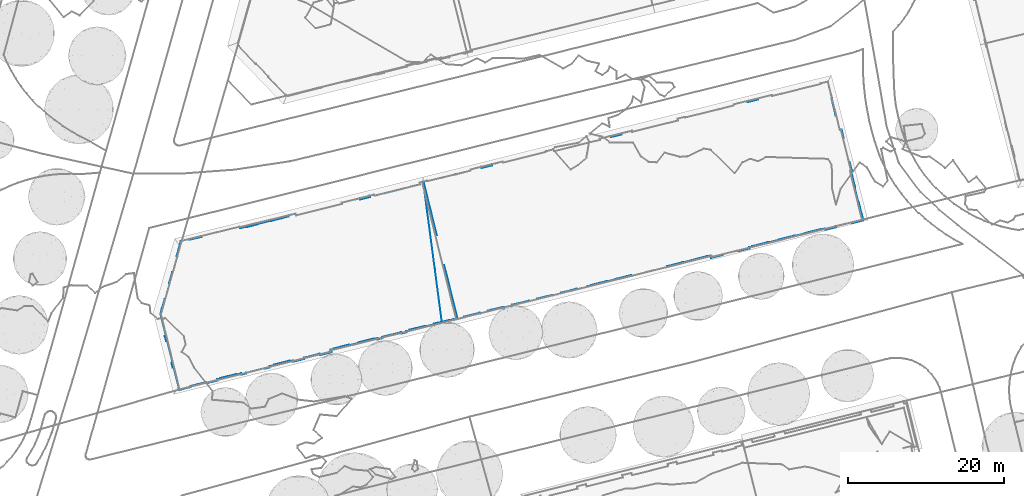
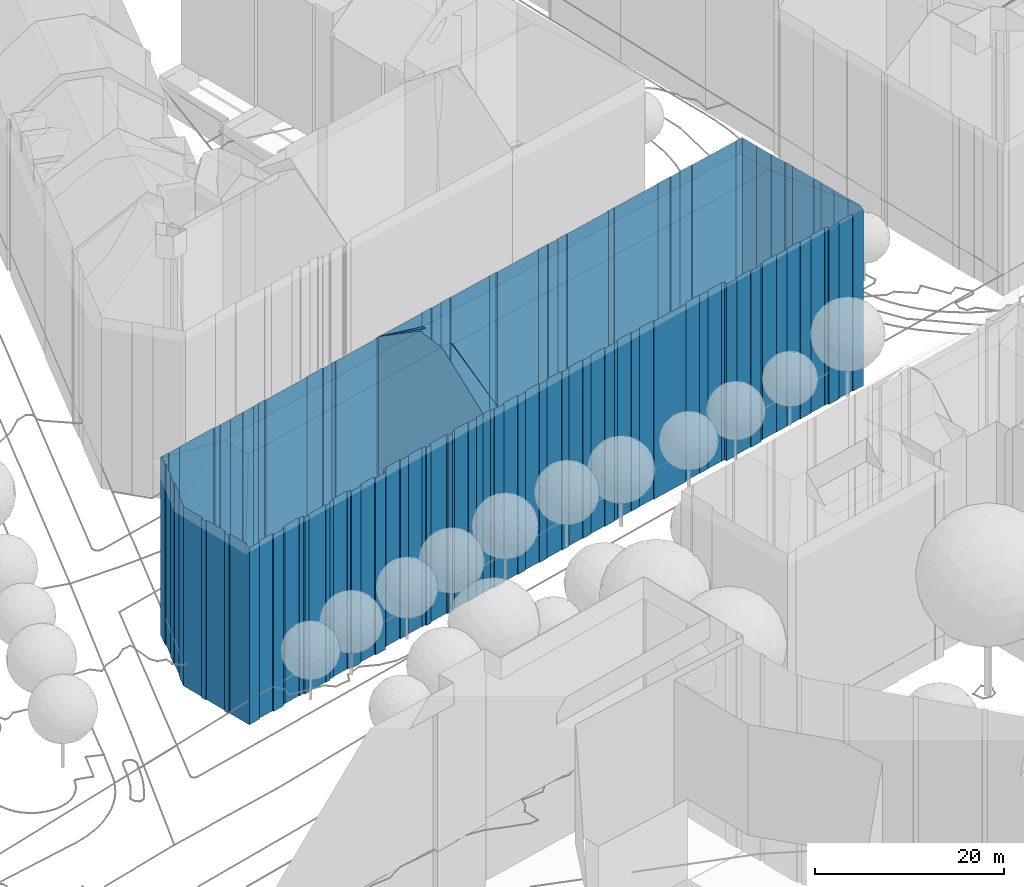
# Not in any storey, part 32 of 477: 2 walls.
"""IFC4 building model written with IfcOpenShell, lengths in metres."""

from ifc_helpers import new_model, si_unit, frame, origin_with_axes, place, context, subcontext, project, spatial, polygons, element, save


model = new_model("IFC4")

# Units and contexts
model_context = context("Model", 3, precision=1e-05, world=origin_with_axes())
body_context = subcontext(model_context, "Body", "Model", "MODEL_VIEW")
ifc_project = project(units=[si_unit("AREAUNIT", "SQUARE_METRE"), si_unit("LENGTHUNIT", "METRE")], contexts=[model_context])

# Sites, building
site_1_placement = place(None, origin_with_axes())
site_1 = spatial("IfcSite", under=ifc_project, at=site_1_placement, Name="Topoexport Site")
site_2_placement = place(site_1_placement, origin_with_axes())
site_2 = spatial("IfcSite", under=site_1, at=site_2_placement, Name="TPX_BUILDINGS")
building_1_placement = place(site_2_placement, frame((81.7547320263, 354.0350160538, 535.8227), z_axis=(0.0, 0.0, 1.0), x_axis=(1.0, 0.0, 0.0)))
building_1 = spatial("IfcBuilding", under=site_2, at=building_1_placement, Name="Building 164", CompositionType="ELEMENT")

# Wall
wall_1_placement = place(None, frame((81.7547320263, 354.0350160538, 535.8227), z_axis=(0.0, 0.0, 1.0), x_axis=(1.0, 0.0, 0.0)))
element("IfcWall", 1, at=wall_1_placement, inside=building_1, Name="Wall 0", context=body_context, shape_type="Tessellation", body=[
    polygons([(2.7639999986, -10.9317000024, 27.5734), (2.6779999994, -10.5811000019, 27.7703), (2.7639999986, -10.9317000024, 27.7403), (0.063000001, 0.0155999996, 23.0608), (1.6660000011, -6.5508000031, 27.7914), (1.6660000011, -6.5508000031, 27.4574), (0.063000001, 0.0155999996, 23.0878), (1.7730000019, -6.9131000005, 27.7424), (4.4270000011, -17.6055000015, 23.0748), (4.4270000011, -17.6055000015, 23.0608), (1.4459999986, -10.8868000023, 0.0), (0.9459999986, -7.1202000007, 27.7704), (1.4459999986, -10.8868000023, 27.7703), (1.4919999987, -11.2305000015, 0.0), (1.4919999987, -11.2305000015, 27.5814), (3.4160000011, -17.7237000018, 0.0), (3.4310000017, -17.7675999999, 23.1128), (3.4310000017, -17.7675999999, 0.0), (3.8969999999, -17.6446000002, 0.0), (3.9178999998, -17.7312000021, 23.0598), (3.9178999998, -17.7312000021, 0.0), (3.8969999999, -17.6443000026, 23.1188), (4.2390000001, -17.6513999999, 23.0608), (4.2390000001, -17.6513999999, 0.0), (4.4299999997, -17.6045000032, 0.0), (2.3880000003, -17.9776000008, 23.1418), (2.3880000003, -17.9776000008, 0.0), (4.7899999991, -17.5157000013, 23.0758), (5.2769999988, -17.3946000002, 0.0), (5.2769999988, -17.3946000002, 23.0778), (5.2609999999, -17.3057000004, 0.0), (5.2609999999, -17.3057000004, 23.1388), (7.2520000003, -16.8125, 23.1438), (7.2520000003, -16.8125, 0.0), (7.2829999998, -16.8965000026, 23.0838), (7.2829999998, -16.8965000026, 0.0), (8.2300000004, -16.6621000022, 23.0868), (8.2120000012, -16.6661000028, 0.0), (7.7230000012, -16.7871000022, 23.0848), (8.3420000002, -16.5411000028, 0.0), (8.3630000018, -16.6289000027, 0.0), (8.3420000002, -16.5411000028, 23.1478), (8.7919999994, -16.4307000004, 0.0), (8.7390000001, -16.443400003, 23.1488), (8.3630000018, -16.6289000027, 23.0858), (26.6669999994, -11.9932000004, 23.0998), (24.6559999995, -12.4786000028, 0.0), (24.6559999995, -12.4786000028, 23.1148), (26.6669999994, -11.9932000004, 0.0), (26.694000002, -12.0840000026, 23.0318), (31.2730000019, -10.9502000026, 0.0), (31.2730000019, -10.9502000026, 23.0178), (31.2470000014, -10.8467000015, 0.0), (31.2470000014, -10.8467000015, 23.0938), (33.2459999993, -10.3409000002, 23.0948), (33.2459999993, -10.3409000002, 0.0), (33.2580000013, -10.3731000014, 0.0), (34.4510000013, -10.0811000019, 23.0648), (34.4510000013, -10.0811000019, 0.0), (34.4450000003, -10.0459000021, 0.0), (36.3969999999, -9.567400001, 23.0808), (34.4450000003, -10.0459000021, 23.0898), (36.4070000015, -9.6084000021, 23.0498), (36.4070000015, -9.6084000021, 0.0), (36.3969999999, -9.567400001, 0.0), (36.8330000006, -9.5020000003, 0.0), (36.8330000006, -9.5020000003, 23.0488), (36.9050000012, -9.7803000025, 22.8438), (36.9052000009, -9.7803000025, 0.0), (40.3770000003, -8.8203000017, 22.9028), (40.3770000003, -8.8203000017, 0.0), (38.3379999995, -9.327200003, 0.0), (38.3379999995, -9.327200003, 22.9078), (40.4010000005, -8.9151000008, 0.0), (40.4010000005, -8.9151000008, 22.8328), (41.8090000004, -8.563500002, 0.0), (41.8090000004, -8.563500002, 22.8298), (41.7730000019, -8.4131000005, 22.9408), (42.1550000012, -8.3194000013, 0.0), (41.7730000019, -8.4131000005, 0.0), (42.1550000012, -8.3194000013, 22.9388), (42.1449999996, -8.2803000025, 22.9678), (42.1449999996, -8.2803000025, 0.0), (44.1460000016, -7.7832000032, 22.9628), (44.1460000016, -7.7832000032, 0.0), (44.1610000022, -7.8145000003, 22.9388), (44.1610000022, -7.8145000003, 0.0), (45.6469999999, -7.4502000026, 22.9308), (47.5320000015, -6.942400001, 0.0), (45.6330000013, -7.4034000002, 0.0), (47.5320000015, -6.942400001, 22.9538), (45.6330000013, -7.4034000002, 22.9658), (47.5450000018, -6.9803000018, 22.9248), (47.5450000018, -6.9805000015, 0.0), (49.0370000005, -6.6152999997, 0.0), (49.0370000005, -6.6152999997, 22.9168), (49.0250000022, -6.5703000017, 22.9508), (49.0250000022, -6.5703000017, 0.0), (51.0549999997, -6.0577000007, 22.9508), (51.0549999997, -6.0576000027, 0.0), (51.0709999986, -6.1055000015, 0.0), (51.4629999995, -6.004900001, 22.9158), (51.4629999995, -6.004900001, 0.0), (51.0709999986, -6.1055000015, 22.9148), (51.5159999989, -6.1748000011, 22.7888), (51.5159999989, -6.1748000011, 0.0), (52.9180000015, -5.8379000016, 22.7768), (52.9180000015, -5.8379000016, 0.0), (52.8949999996, -5.7276000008, 22.8578), (52.8949999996, -5.7276000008, 0.0), (54.9420000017, -5.2276000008, 22.8468), (54.9420000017, -5.2276000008, 0.0), (54.9670000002, -5.3269999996, 22.7728), (54.9670000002, -5.3269999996, 0.0), (56.4129999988, -4.9825000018, 22.7598), (10.3099999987, -16.0567000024, 23.1428), (10.3099999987, -16.0567000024, 0.0), (10.3359999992, -16.1407000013, 23.0798), (10.3361000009, -16.1405999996, 0.0), (11.4270000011, -15.8692000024, 23.0768), (11.4270000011, -15.8692000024, 0.0), (11.4090000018, -15.7901000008, 0.0), (11.4090000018, -15.7901000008, 23.1348), (13.561999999, -15.2696000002, 0.0), (13.5789999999, -15.3360000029, 23.0698), (13.5621000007, -15.2699000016, 23.1198), (13.5789999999, -15.3360000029, 0.0), (14.5879999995, -15.0860000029, 23.0668), (14.5879999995, -15.0860000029, 0.0), (14.5729999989, -15.0157000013, 0.0), (14.5729999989, -15.0157000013, 23.1188), (16.5639999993, -14.5244000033, 0.0), (16.5639999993, -14.5245000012, 23.1118), (16.5800000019, -14.5918000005, 23.0618), (16.5800000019, -14.5918000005, 0.0), (17.6959999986, -14.3155000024, 23.0578), (17.6959999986, -14.3154000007, 0.0), (17.6810000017, -14.2383000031, 0.0), (17.6810000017, -14.2383000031, 23.1148), (19.6710000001, -13.7471000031, 23.1068), (19.6710000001, -13.7471000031, 0.0), (19.6909999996, -13.8213, 0.0), (19.6909999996, -13.8213, 23.0518), (21.0590000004, -13.4825000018, 23.0478), (21.0590000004, -13.4825000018, 0.0), (21.0470000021, -13.4239000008, 23.0898), (21.5269999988, -13.3057000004, 0.0), (21.5269999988, -13.3057000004, 23.0888), (21.0470000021, -13.4239000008, 0.0), (21.5130000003, -13.2530000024, 0.0), (23.5159999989, -12.7637000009, 0.0), (23.5159999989, -12.7637000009, 23.1168), (21.5130000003, -13.2530000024, 23.1268), (23.5280000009, -12.8055000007, 23.0858), (23.5280000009, -12.8055000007, 0.0), (24.6680000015, -12.5263999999, 0.0), (24.6680000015, -12.5263999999, 23.0798), (56.2630000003, -4.3692000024, 23.0758), (56.2320000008, -4.2422000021, 23.0718), (56.2769999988, -4.4229000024, 7.2093), (56.307, -4.5470000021, 0.0), (56.307, -4.5470000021, 23.0798), (56.2300000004, -4.2334000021, 0.0), (52.9479999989, 8.5067999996, 22.9398), (53.4220000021, 6.5898000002, 0.0), (53.4220000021, 6.5898000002, 22.9728), (52.9479999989, 8.5067999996, 0.0), (52.8770000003, 8.4842999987, 0.0), (52.8770000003, 8.4842999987, 22.9908), (52.3440000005, 10.6747999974, 22.9478), (52.3440000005, 10.6747999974, 0.0), (52.4050000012, 10.6991999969, 0.0), (51.8770000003, 12.8299999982, 22.8678), (51.8770000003, 12.8299999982, 0.0), (52.4050000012, 10.6991999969, 22.9028), (51.8110000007, 12.8134000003, 22.9138), (50.9210000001, 12.5975999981, 22.9138), (55.9880000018, -3.2442000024, 23.0528), (55.9979999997, -3.2842000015, 5.7504), (55.8570000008, -2.7090000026, 0.0), (55.8570000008, -2.7090000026, 23.0428), (56.1380000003, -3.8594000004, 11.5289), (55.8110000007, -2.7168000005, 0.0), (55.8110000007, -2.7168000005, 23.0748), (55.3489999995, -0.6338, 0.0), (55.3029999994, -0.6494000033, 0.0), (55.3489999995, -0.6338, 23.0038), (54.8599999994, 1.369099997, 22.9658), (54.8599999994, 1.369099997, 0.0), (54.949000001, 1.3905999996, 22.9028), (54.949000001, 1.3905999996, 0.0), (53.8220000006, 5.5625, 22.8948), (53.8220000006, 5.5625, 0.0), (54.5969999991, 2.4491999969, 22.9448), (53.9100000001, 5.5887999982, 22.8318), (53.9100000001, 5.5887999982, 0.0), (53.6570000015, 6.6454999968, 22.8088), (53.6570000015, 6.6454999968, 0.0), (0.0, 0.0, 0.0), (0.0329999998, 0.0088, 0.0), (0.0, 0.0, 23.0658), (0.1150000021, 0.0282999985, 23.0868), (0.9459999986, -7.1202000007, 0.0), (0.5269999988, 0.047799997, 0.0), (2.4389999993, 0.5145999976, 10.481), (0.5269999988, 0.047799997, 23.1408), (4.1270000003, 0.9266999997, 0.0), (0.5080000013, 0.1268999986, 23.0848), (0.5080000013, 0.1268999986, 0.0), (22.6209999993, 5.4979999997, 0.0), (24.0399999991, 5.8486000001, 23.0688), (22.6209999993, 5.4979999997, 23.0728), (24.0399999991, 5.8486000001, 0.0), (22.6570000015, 5.3514999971, 0.0), (22.6570000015, 5.3514999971, 23.1768), (16.7820000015, 3.8944999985, 0.0), (16.7820000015, 3.8944999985, 23.1988), (16.7259999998, 4.1278999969, 23.0338), (16.7259999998, 4.1278999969, 0.0), (15.7639999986, 3.8954999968, 23.0328), (15.7639999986, 3.8954999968, 0.0), (15.7829999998, 3.8172999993, 0.0), (15.7829999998, 3.8172999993, 23.0878), (10.2300000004, 2.422799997, 23.1208), (10.194000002, 2.5682999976, 23.0178), (10.194000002, 2.5682999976, 0.0), (10.2300000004, 2.422799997, 0.0), (8.8249999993, 2.2313999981, 23.0208), (8.8249999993, 2.2313999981, 0.0), (8.8509999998, 2.0829999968, 0.0), (7.512000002, 1.7470999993, 0.0), (7.4790000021, 1.9012999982, 23.0228), (7.4790000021, 1.9012999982, 0.0), (7.512000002, 1.7469999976, 23.1318), (6.0549999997, 1.5516999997, 0.0), (6.0910000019, 1.4051999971, 23.1298), (6.0910000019, 1.4051999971, 0.0), (6.0549999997, 1.5516999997, 23.0268), (4.1500000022, 0.932599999, 23.1318), (50.9210000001, 12.5975999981, 0.0), (50.9420000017, 12.5097000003, 0.0), (50.9420000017, 12.5097000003, 22.9758), (44.7300000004, 10.9667999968, 0.0), (44.694000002, 11.1122999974, 0.0), (44.694000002, 11.1122999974, 22.8968), (42.9160000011, 10.672799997, 0.0), (42.9160000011, 10.672799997, 22.9028), (42.9459999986, 10.5292999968, 23.0038), (42.9459999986, 10.5292999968, 0.0), (41.5729999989, 10.3396999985, 22.9078), (41.5729999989, 10.3396999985, 0.0), (41.6110000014, 10.177699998, 0.0), (41.6110000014, 10.177699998, 23.0228), (39.7730000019, 9.8944999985, 22.9138), (39.7730000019, 9.8944999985, 0.0), (39.8090000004, 9.748999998, 0.0), (39.8090000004, 9.748999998, 23.0168), (33.5780000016, 8.2137999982, 23.0338), (33.5780000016, 8.2137999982, 0.0), (33.557, 8.3006999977, 0.0), (33.557, 8.3006999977, 22.9718), (32.5980000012, 8.066399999, 22.9728), (32.5980000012, 8.066399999, 0.0), (32.6550000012, 7.8338999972, 23.1378), (32.6550000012, 7.8339999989, 0.0), (26.7860000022, 6.3729999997, 23.1628), (26.7860000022, 6.3729999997, 0.0), (26.75, 6.5185000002, 0.0), (26.75, 6.5185000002, 23.0598), (25.379999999, 6.1805999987, 23.0638), (25.379999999, 6.1805999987, 0.0), (25.4079999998, 6.0340999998, 0.0), (25.4079999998, 6.0340999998, 23.1668), (24.0720000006, 5.7088999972, 0.0), (24.0720000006, 5.7088999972, 23.1668), (3.4160000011, -17.7237000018, 23.1438), (26.694000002, -12.0840000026, 0.0), (33.2580000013, -10.3731000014, 23.0708), (38.3610000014, -9.4200000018, 22.8388), (38.3610000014, -9.4200000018, 0.0), (45.6469999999, -7.4502000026, 0.0), (56.4129999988, -4.9825000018, 0.0), (55.3029999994, -0.6494000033, 23.0368), (54.6849999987, 2.4754999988, 22.8818), (54.6849999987, 2.4755999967, 0.0), (54.5969999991, 2.4491999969, 0.0), (8.8509999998, 2.0829999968, 23.1248), (44.7300000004, 10.9667999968, 23.0008)], [[[3, 2, 1]], [[6, 5, 4]], [[7, 4, 5]], [[8, 5, 6]], [[10, 9, 3]], [[3, 1, 10]], [[13, 12, 11]], [[15, 11, 14]], [[18, 17, 16]], [[19, 17, 18]], [[22, 21, 20]], [[22, 19, 21]], [[20, 21, 23]], [[23, 21, 24]], [[25, 10, 23]], [[23, 24, 25]], [[27, 26, 15]], [[14, 27, 15]], [[29, 28, 25]], [[30, 28, 29]], [[10, 28, 9]], [[28, 10, 25]], [[32, 30, 31]], [[34, 33, 31]], [[36, 35, 33]], [[33, 34, 36]], [[39, 38, 37]], [[39, 35, 36]], [[42, 41, 40]], [[44, 40, 43]], [[44, 42, 40]], [[41, 45, 37]], [[38, 41, 37]], [[45, 41, 42]], [[48, 47, 46]], [[49, 46, 47]], [[50, 46, 49]], [[52, 50, 51]], [[54, 52, 53]], [[53, 52, 51]], [[54, 56, 55]], [[55, 56, 57]], [[59, 58, 57]], [[58, 59, 60]], [[62, 60, 61]], [[64, 63, 61]], [[61, 65, 64]], [[63, 64, 66]], [[69, 68, 67]], [[72, 71, 70]], [[70, 73, 72]], [[75, 71, 74]], [[75, 74, 76]], [[78, 77, 76]], [[81, 80, 79]], [[79, 82, 81]], [[83, 82, 79]], [[85, 84, 83]], [[82, 83, 84]], [[84, 85, 86]], [[88, 86, 87]], [[91, 90, 89]], [[92, 90, 91]], [[91, 89, 93]], [[94, 93, 89]], [[96, 93, 95]], [[93, 94, 95]], [[98, 97, 96]], [[96, 95, 98]], [[100, 99, 97]], [[97, 98, 100]], [[99, 100, 101]], [[104, 103, 102]], [[104, 101, 103]], [[102, 103, 105]], [[105, 103, 106]], [[108, 107, 106]], [[109, 107, 108]], [[112, 111, 110]], [[110, 111, 109]], [[112, 114, 113]], [[111, 112, 113]], [[114, 115, 113]], [[43, 117, 116]], [[116, 44, 43]], [[119, 118, 116]], [[116, 117, 119]], [[121, 120, 118]], [[118, 119, 121]], [[120, 121, 122]], [[124, 123, 122]], [[126, 124, 125]], [[127, 125, 124]], [[127, 129, 128]], [[131, 129, 130]], [[133, 130, 132]], [[130, 133, 131]], [[132, 135, 134]], [[132, 134, 133]], [[134, 135, 136]], [[138, 136, 137]], [[138, 139, 136]], [[139, 141, 140]], [[139, 138, 141]], [[140, 141, 142]], [[145, 144, 143]], [[143, 142, 145]], [[146, 144, 145]], [[148, 146, 147]], [[147, 146, 149]], [[148, 147, 150]], [[152, 150, 151]], [[150, 152, 153]], [[152, 155, 154]], [[152, 151, 155]], [[157, 155, 156]], [[157, 156, 47]], [[160, 159, 158]], [[162, 161, 158]], [[158, 161, 160]], [[160, 161, 163]], [[166, 165, 164]], [[164, 165, 167]], [[169, 164, 168]], [[164, 167, 168]], [[171, 170, 168]], [[169, 168, 170]], [[170, 171, 172]], [[175, 174, 173]], [[173, 177, 176]], [[179, 178, 163]], [[181, 179, 180]], [[179, 181, 178]], [[178, 159, 182]], [[179, 163, 180]], [[180, 183, 181]], [[184, 181, 183]], [[187, 186, 185]], [[185, 188, 187]], [[189, 188, 185]], [[188, 191, 190]], [[188, 189, 191]], [[194, 193, 192]], [[196, 195, 193]], [[198, 197, 195]], [[196, 198, 195]], [[165, 166, 197]], [[197, 198, 165]], [[201, 200, 199]], [[4, 202, 200]], [[12, 201, 203]], [[206, 205, 204]], [[205, 207, 204]], [[206, 209, 208]], [[206, 204, 209]], [[4, 7, 202]], [[208, 209, 202]], [[202, 209, 200]], [[212, 211, 210]], [[211, 213, 210]], [[215, 210, 214]], [[210, 215, 212]], [[217, 215, 216]], [[215, 214, 216]], [[219, 218, 216]], [[217, 216, 218]], [[220, 218, 219]], [[220, 219, 221]], [[223, 220, 222]], [[220, 221, 222]], [[224, 223, 222]], [[227, 226, 225]], [[225, 229, 228]], [[228, 229, 230]], [[233, 232, 231]], [[231, 232, 234]], [[232, 233, 235]], [[238, 237, 236]], [[238, 235, 237]], [[237, 239, 236]], [[177, 174, 240]], [[243, 242, 241]], [[245, 243, 244]], [[247, 245, 246]], [[249, 248, 246]], [[252, 251, 250]], [[253, 252, 250]], [[250, 255, 254]], [[250, 251, 255]], [[257, 254, 256]], [[254, 255, 256]], [[258, 257, 256]], [[258, 256, 259]], [[261, 258, 260]], [[260, 258, 259]], [[263, 262, 260]], [[262, 265, 264]], [[262, 263, 265]], [[267, 266, 265]], [[266, 264, 265]], [[269, 266, 268]], [[268, 271, 270]], [[270, 269, 268]], [[273, 270, 272]], [[270, 271, 272]], [[273, 272, 274]], [[211, 275, 213]], [[275, 274, 213]], [[12, 203, 11]], [[13, 11, 15]], [[26, 27, 276]], [[16, 276, 27]], [[276, 16, 17]], [[19, 22, 17]], [[30, 29, 31]], [[32, 31, 33]], [[38, 39, 36]], [[277, 50, 49]], [[50, 277, 51]], [[54, 53, 56]], [[278, 55, 57]], [[57, 58, 278]], [[60, 62, 58]], [[65, 61, 60]], [[66, 67, 63]], [[67, 66, 69]], [[68, 280, 279]], [[280, 68, 69]], [[73, 279, 72]], [[279, 280, 72]], [[70, 71, 75]], [[76, 77, 75]], [[80, 78, 76]], [[78, 80, 81]], [[87, 86, 85]], [[281, 88, 87]], [[88, 90, 92]], [[88, 281, 90]], [[99, 101, 104]], [[105, 106, 107]], [[110, 109, 108]], [[282, 115, 114]], [[162, 282, 161]], [[162, 115, 282]], [[122, 123, 120]], [[126, 123, 124]], [[128, 125, 127]], [[128, 129, 131]], [[137, 136, 135]], [[142, 143, 140]], [[149, 146, 145]], [[153, 148, 150]], [[154, 155, 157]], [[48, 157, 47]], [[163, 159, 160]], [[170, 172, 175]], [[174, 175, 172]], [[173, 174, 177]], [[178, 182, 163]], [[159, 163, 182]], [[186, 283, 183]], [[283, 184, 183]], [[283, 186, 187]], [[190, 285, 284]], [[190, 191, 285]], [[286, 194, 285]], [[285, 194, 284]], [[194, 286, 193]], [[192, 193, 195]], [[4, 200, 201]], [[201, 199, 203]], [[205, 206, 239]], [[239, 207, 205]], [[224, 222, 227]], [[224, 227, 225]], [[225, 226, 229]], [[287, 228, 230]], [[230, 231, 234]], [[287, 230, 234]], [[232, 235, 238]], [[207, 239, 237]], [[242, 240, 241]], [[177, 240, 242]], [[288, 242, 243]], [[288, 243, 245]], [[246, 245, 244]], [[247, 246, 248]], [[248, 249, 252]], [[253, 248, 252]], [[260, 262, 261]], [[266, 267, 268]], [[273, 274, 275]]]),
])

# Building
building_2_placement = place(site_2_placement, frame((48.0647320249, 337.0857160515, 535.8227), z_axis=(0.0, 0.0, 1.0), x_axis=(1.0, 0.0, 0.0)))
building_2 = spatial("IfcBuilding", under=site_2, at=building_2_placement, Name="Building 165", CompositionType="ELEMENT")

# Wall
wall_2_placement = place(None, frame((48.0647320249, 337.0857160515, 535.8227), z_axis=(0.0, 0.0, 1.0), x_axis=(1.0, 0.0, 0.0)))
element("IfcWall", 2, at=wall_2_placement, inside=building_2, Name="Wall 0", context=body_context, shape_type="Tessellation", body=[
    polygons([(34.6359999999, 9.8291000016, 0.0), (35.1359999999, 6.0625, 27.7703), (34.6359999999, 9.8291000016, 27.7704), (35.1359999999, 6.0625, 0.0), (35.182, 5.7188000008, 27.5814), (35.6640000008, -1.1297999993, 8.6782), (35.6140000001, -1.1415999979, 23.1418), (36.0780000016, -1.0282999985, 0.0), (35.3230000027, -1.2137999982, 23.1418), (35.2910000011, -1.2215999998, 0.0), (35.182, 5.7188000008, 0.0), (36.0780000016, -1.0282999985, 23.1418), (16.5670000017, -6.0839000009, 22.9998), (16.5530000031, -6.0126999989, 0.0), (16.5530000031, -6.0126999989, 23.0468), (16.5670000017, -6.0839000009, 0.0), (16.9790000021, -5.9715999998, 23.0058), (16.9790000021, -5.9715999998, 0.0), (17.018000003, -6.1464000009, 22.8898), (17.0181000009, -6.1464000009, 0.0), (18.4250000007, -5.7861000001, 0.0), (18.4250000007, -5.7861000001, 22.8978), (20.4300000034, -5.1259000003, 0.0), (18.3900000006, -5.6268999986, 0.0), (20.4300000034, -5.1259000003, 23.0008), (20.4680000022, -5.2899999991, 22.8908), (20.4680000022, -5.2899999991, 0.0), (21.9140000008, -4.9384000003, 22.8868), (21.9140000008, -4.9384000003, 0.0), (21.8280000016, -4.6004999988, 0.0), (21.8280000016, -4.6004999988, 23.1128), (22.2300000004, -4.4941000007, 23.1178), (22.2300000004, -4.4941000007, 0.0), (22.2210000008, -4.4442999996, 23.1508), (22.2210000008, -4.4442999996, 0.0), (24.2039999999, -3.9422999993, 23.1578), (24.2039999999, -3.9422999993, 0.0), (24.2240000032, -4.0262999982, 0.0), (24.2240000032, -4.0262999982, 23.1018), (25.3859999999, -3.7362999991, 23.1028), (25.3859999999, -3.7362999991, 0.0), (25.3740000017, -3.6668999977, 23.1488), (25.3740000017, -3.6669999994, 0.0), (27.3430000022, -3.1717999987, 23.1528), (27.3560000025, -3.2284999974, 23.1158), (27.3430000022, -3.1717999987, 0.0), (27.3560000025, -3.2284999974, 0.0), (27.8330000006, -3.1180999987, 23.1108), (27.8330000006, -3.1180999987, 0.0), (27.8660000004, -3.2752999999, 23.0058), (27.8660000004, -3.2752999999, 0.0), (28.4820000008, -3.1210999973, 0.0), (28.4820000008, -3.1210999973, 23.0068), (28.4470000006, -2.9608999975, 0.0), (30.8550000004, -2.3662, 23.1128), (30.8550000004, -2.3662, 0.0), (30.8890000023, -2.5340999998, 23.0018), (30.8890000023, -2.5340999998, 0.0), (31.5450000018, -2.3691000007, 0.0), (31.5140000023, -2.2284999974, 23.0968), (31.5140000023, -2.2284999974, 0.0), (31.5450000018, -2.3691000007, 23.0028), (31.9720000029, -2.1092999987, 23.0998), (31.9580000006, -2.0321999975, 0.0), (31.9580000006, -2.0321999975, 23.1508), (31.9720000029, -2.1092999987, 0.0), (33.9360000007, -1.5487999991, 23.1468), (33.9360000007, -1.5487999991, 0.0), (33.950000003, -1.6162, 23.1018), (33.950000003, -1.6162, 0.0), (35.1140000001, -1.3348999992, 23.0978), (35.1140000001, -1.3348999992, 0.0), (35.1000000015, -1.2685000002, 0.0), (35.1000000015, -1.2685000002, 23.1418), (2.4410000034, -9.753899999, 0.0), (2.4410000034, -9.753899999, 22.8918), (3.876000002, -9.3964000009, 0.0), (3.8480000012, -9.2597000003, 22.9838), (3.876000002, -9.3964000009, 22.8938), (3.8480000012, -9.2597000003, 0.0), (5.8650000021, -8.7577999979, 22.9848), (5.8650000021, -8.7577999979, 0.0), (5.8980000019, -8.9081999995, 0.0), (5.8980000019, -8.9081999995, 22.8858), (7.3340000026, -8.5506999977, 0.0), (7.3340000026, -8.5506999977, 22.8858), (7.2960000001, -8.3856999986, 0.0), (7.2960000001, -8.3856999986, 22.9958), (7.6760000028, -8.2928999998, 22.9958), (7.6760000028, -8.2928999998, 0.0), (7.6620000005, -8.2324000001, 0.0), (7.6620000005, -8.2324000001, 23.0358), (9.7030000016, -7.7342999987, 0.0), (9.7170000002, -7.7949000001, 22.9908), (9.7170000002, -7.7949000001, 0.0), (10.3260000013, -7.6307999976, 22.9988), (10.3260000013, -7.6307999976, 0.0), (10.3650000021, -7.807599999, 22.8818), (10.9740000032, -7.6483999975, 0.0), (10.9740000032, -7.6483999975, 22.8868), (10.3650000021, -7.807599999, 0.0), (10.9650000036, -7.566399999, 22.9398), (10.9650000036, -7.566399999, 0.0), (13.4020000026, -6.9549999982, 0.0), (13.4020000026, -6.9549999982, 22.9448), (13.4180000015, -7.0262999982, 0.0), (14.0080000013, -6.8768999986, 0.0), (13.4180000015, -7.0262999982, 22.8978), (14.0080000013, -6.8768999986, 22.8998), (13.9790000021, -6.7333999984, 22.9948), (13.9790000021, -6.7333999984, 0.0), (14.5620000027, -6.5918000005, 22.9928), (14.5620000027, -6.5918000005, 0.0), (14.5450000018, -6.5126999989, 0.0), (14.5450000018, -6.5126999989, 23.0448), (0.0, 0.0, 23.2048), (0.1660000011, 0.5733000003, 0.0), (0.0800000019, 0.2774000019, 23.2978), (0.1770000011, -0.7049999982, 23.2068), (0.7039999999, -2.807599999, 23.2108), (0.7039999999, -2.807599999, 0.0), (0.5670000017, -2.8436999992, 23.1198), (0.5670000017, -2.8438000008, 0.0), (0.7400000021, -3.4881999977, 0.0), (0.7400000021, -3.4881999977, 23.1278), (0.8590000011, -3.4648000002, 23.2058), (0.8590000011, -3.4648000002, 0.0), (1.5610000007, -6.2547999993, 0.0), (1.5610000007, -6.2547999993, 23.2128), (1.4330000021, -6.2909999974, 23.1278), (1.4330000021, -6.2909999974, 0.0), (1.5920000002, -6.9247999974, 0.0), (1.7150000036, -6.8983999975, 0.0), (1.5920000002, -6.9247999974, 23.1288), (1.7150000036, -6.8983999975, 23.2098), (1.9780000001, -7.9335999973, 8.7022), (2.1120000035, -8.4589000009, 23.2158), (2.0800000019, 7.4229000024, 0.0), (2.4520000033, 8.7618000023, 0.0), (2.0800000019, 7.4229000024, 23.3528), (2.1770000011, 7.3858000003, 0.0), (1.5920000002, 5.3194000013, 0.0), (2.1770000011, 7.3858000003, 23.4328), (1.5151000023, 5.3438000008, 23.3798), (1.5151000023, 5.3438000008, 0.0), (1.5921000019, 5.3194000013, 23.4428), (1.1180000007, 3.9453999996, 0.0), (1.1180000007, 3.9453999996, 23.3868), (1.194000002, 3.9180000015, 0.0), (1.194000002, 3.9180000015, 23.4488), (0.6160000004, 1.8780000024, 23.4588), (0.5472000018, 1.8966000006, 23.4028), (0.5472000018, 1.8965000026, 0.0), (32.0670000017, 16.2872000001, 11.2509), (30.6530000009, 15.933600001, 23.2268), (30.2790000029, 15.8399000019, 0.0), (33.3000000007, 16.5947999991, 0.0), (33.3000000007, 16.5947999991, 23.2288), (33.6900000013, 16.9493000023, 23.0658), (33.6900000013, 16.9493000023, 0.0), (33.5520000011, 16.9151000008, 23.0658), (33.2390000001, 16.8379000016, 0.0), (33.5500000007, 16.9141000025, 0.0), (33.2390000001, 16.8379000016, 23.0638), (25.6000000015, 14.6534000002, 0.0), (25.5670000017, 14.8164000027, 23.1348), (25.5670000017, 14.8164000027, 0.0), (25.6000000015, 14.6534000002, 23.2428), (23.2530000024, 14.2344000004, 0.0), (23.2530000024, 14.2344000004, 23.1388), (23.2900000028, 14.0888999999, 0.0), (23.2900000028, 14.0888999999, 23.2368), (17.4160000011, 12.6220999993, 0.0), (17.4160000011, 12.6220999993, 23.2418), (17.3590000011, 12.8544999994, 0.0), (17.3590000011, 12.8544999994, 23.0848), (16.3880000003, 12.6182000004, 23.0828), (16.3880000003, 12.6182000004, 0.0), (16.4060000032, 12.4776000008, 0.0), (15.6510000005, 12.2969000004, 0.0), (16.4060000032, 12.4776000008, 23.1738), (15.6510000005, 12.2969000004, 23.1698), (15.6550000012, 12.2657000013, 23.1898), (15.6554000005, 12.2657000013, 0.0), (14.1790000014, 11.9043000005, 23.1868), (14.1790000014, 11.9043000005, 0.0), (14.1730000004, 11.947300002, 23.1588), (14.1730000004, 11.947300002, 0.0), (12.4170000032, 11.5, 23.1658), (12.4170000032, 11.5, 0.0), (12.4210000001, 11.4620000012, 0.0), (12.4210000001, 11.4620000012, 23.1908), (10.9700000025, 11.0918000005, 0.0), (10.9700000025, 11.0918000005, 23.1968), (10.9600000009, 11.1495000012, 23.1588), (10.2130000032, 10.9600000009, 0.0), (10.2130000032, 10.9600000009, 23.1608), (10.1610000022, 11.1601999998, 23.0258), (10.1610000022, 11.1601999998, 0.0), (5.2420000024, 9.9629000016, 0.0), (5.2420000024, 9.9629000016, 23.0108), (5.2630000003, 9.8594000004, 0.0), (5.2630000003, 9.8594000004, 23.0798), (3.7320000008, 9.4922000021, 0.0), (3.7320000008, 9.4922000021, 23.0708), (3.7140000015, 9.5909000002, 23.0058), (3.7139000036, 9.5908000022, 0.0), (2.6090000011, 9.3243000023, 23.0008), (2.4480000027, 8.7470999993, 23.3408), (2.6090000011, 9.3243000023, 0.0), (27.4270000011, 15.1280000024, 0.0), (27.4270000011, 15.1280000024, 23.2298), (27.3900000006, 15.2734999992, 23.1318), (27.3901000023, 15.2734999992, 0.0), (26.8520000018, 14.9678000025, 23.2408), (26.8230000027, 15.1308999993, 0.0), (26.8230000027, 15.1308999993, 23.1328), (26.8520000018, 14.9678000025, 0.0), (18.3900000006, -5.6268999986, 23.0028), (28.4470000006, -2.9608999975, 23.1138), (2.3170000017, -9.2655999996, 23.2188), (9.7030000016, -7.7342999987, 23.0318), (0.0, 0.0, 0.0), (0.1730000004, 0.5976999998, 23.4048), (0.6160000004, 1.8780000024, 0.0), (10.9600000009, 11.1495000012, 0.0)], [[[3, 2, 1]], [[2, 5, 4]], [[8, 7, 6]], [[7, 9, 6]], [[9, 10, 6]], [[6, 10, 8]], [[5, 8, 11]], [[12, 8, 5]], [[15, 14, 13]], [[13, 14, 16]], [[13, 18, 17]], [[18, 13, 16]], [[20, 19, 17]], [[17, 18, 20]], [[22, 20, 21]], [[25, 24, 23]], [[27, 26, 25]], [[25, 23, 27]], [[29, 28, 27]], [[31, 28, 30]], [[30, 28, 29]], [[33, 32, 30]], [[35, 34, 32]], [[32, 33, 35]], [[37, 36, 34]], [[39, 37, 38]], [[39, 38, 40]], [[40, 38, 41]], [[42, 40, 41]], [[42, 41, 43]], [[44, 42, 43]], [[44, 46, 45]], [[49, 48, 47]], [[48, 49, 50]], [[50, 49, 51]], [[53, 50, 52]], [[53, 52, 54]], [[56, 55, 54]], [[55, 56, 57]], [[58, 57, 56]], [[57, 58, 59]], [[62, 61, 60]], [[61, 63, 60]], [[65, 63, 64]], [[66, 64, 63]], [[68, 67, 64]], [[64, 67, 65]], [[67, 68, 69]], [[69, 68, 70]], [[72, 71, 69]], [[69, 70, 72]], [[71, 72, 73]], [[9, 74, 10]], [[74, 73, 10]], [[77, 76, 75]], [[79, 77, 78]], [[78, 77, 80]], [[82, 81, 80]], [[78, 80, 81]], [[84, 82, 83]], [[84, 81, 82]], [[86, 83, 85]], [[88, 86, 87]], [[90, 89, 88]], [[88, 87, 90]], [[92, 89, 91]], [[89, 90, 91]], [[95, 94, 93]], [[94, 95, 96]], [[96, 95, 97]], [[96, 97, 98]], [[100, 98, 99]], [[99, 98, 101]], [[103, 102, 99]], [[105, 102, 104]], [[102, 103, 104]], [[105, 104, 106]], [[109, 108, 107]], [[110, 109, 107]], [[113, 112, 111]], [[112, 110, 111]], [[113, 114, 112]], [[15, 115, 14]], [[115, 114, 14]], [[118, 117, 116]], [[121, 120, 119]], [[119, 116, 121]], [[123, 122, 120]], [[120, 121, 123]], [[125, 123, 124]], [[127, 126, 124]], [[125, 124, 126]], [[129, 126, 128]], [[126, 127, 128]], [[131, 130, 129]], [[131, 129, 128]], [[130, 131, 132]], [[135, 134, 133]], [[133, 134, 132]], [[137, 135, 136]], [[136, 133, 75]], [[140, 139, 138]], [[140, 138, 141]], [[143, 141, 142]], [[146, 145, 144]], [[146, 142, 145]], [[148, 145, 147]], [[150, 148, 149]], [[148, 147, 149]], [[150, 149, 151]], [[151, 153, 152]], [[156, 155, 154]], [[158, 157, 154]], [[154, 157, 156]], [[1, 159, 3]], [[1, 160, 159]], [[161, 159, 160]], [[164, 163, 162]], [[164, 162, 158]], [[158, 162, 157]], [[167, 166, 165]], [[168, 165, 166]], [[170, 167, 169]], [[172, 170, 171]], [[170, 169, 171]], [[171, 173, 172]], [[175, 174, 173]], [[178, 177, 176]], [[177, 178, 179]], [[182, 181, 180]], [[181, 179, 180]], [[184, 183, 182]], [[182, 180, 184]], [[184, 186, 185]], [[185, 183, 184]], [[188, 187, 186]], [[190, 189, 188]], [[187, 188, 189]], [[192, 189, 191]], [[189, 190, 191]], [[195, 194, 193]], [[197, 195, 196]], [[196, 199, 198]], [[196, 198, 197]], [[201, 198, 200]], [[200, 198, 199]], [[203, 200, 202]], [[205, 202, 204]], [[207, 206, 205]], [[204, 207, 205]], [[208, 206, 207]], [[208, 210, 209]], [[209, 210, 139]], [[212, 155, 211]], [[211, 155, 156]], [[214, 213, 212]], [[217, 216, 215]], [[218, 215, 216]], [[215, 218, 165]], [[2, 4, 1]], [[5, 11, 4]], [[8, 12, 7]], [[19, 20, 22]], [[22, 21, 219]], [[24, 219, 21]], [[219, 24, 25]], [[27, 28, 26]], [[31, 30, 32]], [[34, 35, 37]], [[36, 37, 39]], [[44, 43, 46]], [[47, 45, 46]], [[45, 47, 48]], [[52, 50, 51]], [[220, 53, 54]], [[220, 54, 55]], [[59, 62, 57]], [[61, 62, 59]], [[63, 61, 66]], [[71, 73, 74]], [[221, 75, 76]], [[76, 77, 79]], [[84, 83, 86]], [[86, 85, 87]], [[92, 93, 222]], [[92, 91, 93]], [[222, 93, 94]], [[98, 97, 101]], [[99, 102, 100]], [[106, 108, 105]], [[108, 106, 107]], [[107, 111, 110]], [[115, 112, 114]], [[223, 116, 117]], [[224, 117, 118]], [[116, 223, 121]], [[122, 123, 125]], [[132, 134, 130]], [[137, 136, 75]], [[75, 221, 137]], [[135, 133, 136]], [[209, 139, 140]], [[140, 141, 143]], [[143, 142, 146]], [[144, 145, 148]], [[151, 149, 225]], [[151, 225, 153]], [[224, 152, 153]], [[224, 153, 117]], [[158, 154, 155]], [[163, 161, 160]], [[161, 163, 164]], [[166, 167, 170]], [[174, 172, 173]], [[175, 176, 174]], [[176, 175, 178]], [[177, 179, 181]], [[186, 187, 185]], [[192, 193, 194]], [[192, 191, 193]], [[226, 195, 193]], [[195, 226, 196]], [[201, 200, 203]], [[203, 202, 205]], [[208, 207, 210]], [[212, 211, 214]], [[213, 214, 217]], [[217, 214, 216]], [[168, 215, 165]]]),
])

save(model, "model.ifc")
